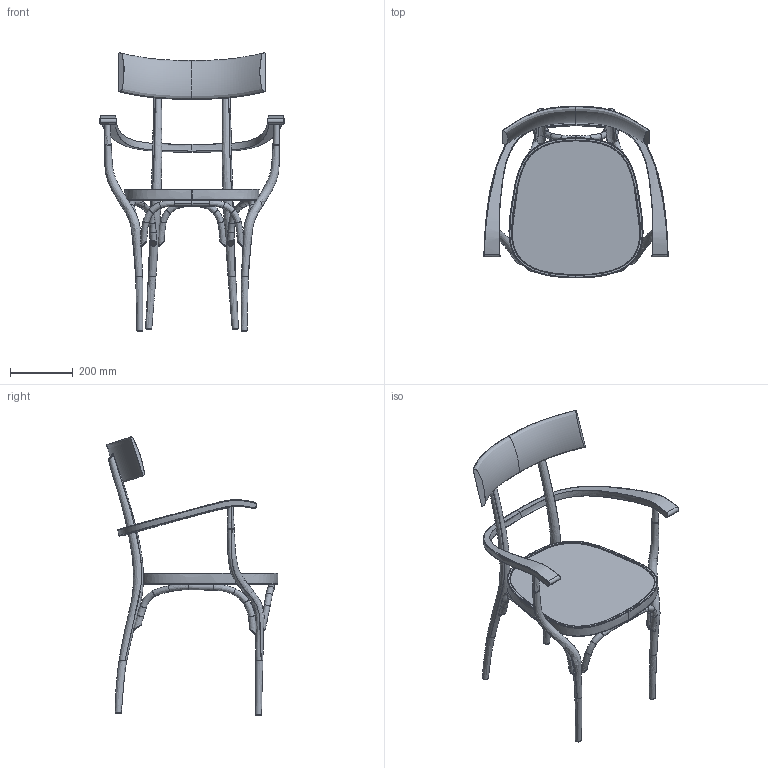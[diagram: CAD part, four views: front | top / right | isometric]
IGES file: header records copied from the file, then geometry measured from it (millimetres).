
Global section: file name: \\192.168.4.99\ufficio tecnico\02 - PRODOTTI IN PRODUZIONE\CZECH\03 - DISEGNI 3D\seduta_czech_uno.igs; native system: Rhinoceros ( Aug 11 2021 ); preprocessor: Trout Lake IGES 012 Aug 11 2021; date: 210914.140425; units: millimetre
Bounding box: 588.05 x 548.5 x 888.66 mm (x, y, z)
Surface area: 1024918 mm2 (no closed solid volume)
Topology: 0 solids, 0 shells, 151 faces, 4816 edges, 4732 vertices
Faces by surface type: bspline 151
